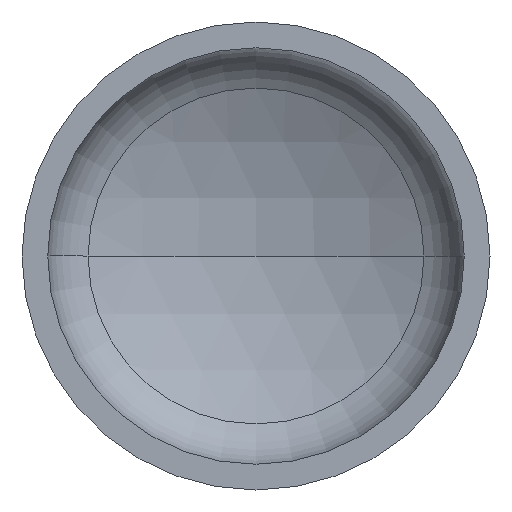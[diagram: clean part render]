
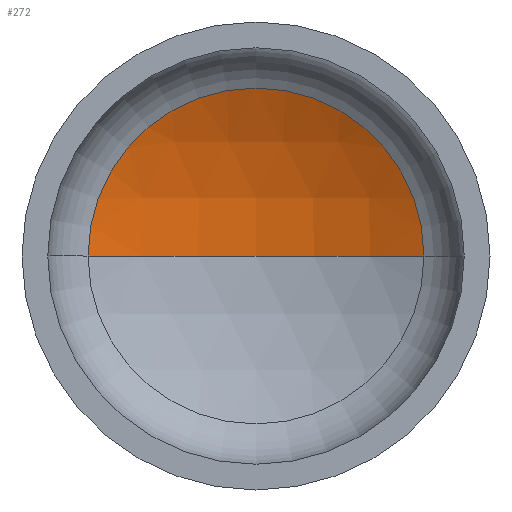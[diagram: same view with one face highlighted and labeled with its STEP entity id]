
A CAD part, front view. The second image highlights one B-rep face of the part: STEP entity #272.
In plain terms, the highlighted spherical face has radius 640 mm.
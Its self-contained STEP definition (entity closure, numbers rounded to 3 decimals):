
#11 = VERTEX_POINT ( 'NONE', #290 ) ;
#17 = EDGE_LOOP ( 'NONE', ( #117, #108, #53 ) ) ;
#33 = AXIS2_PLACEMENT_3D ( 'NONE', #187, #39, #389 ) ;
#37 = DIRECTION ( 'NONE',  ( 1., 0., 0. ) ) ;
#39 = DIRECTION ( 'NONE',  ( 0., 0., -1. ) ) ;
#48 = VERTEX_POINT ( 'NONE', #361 ) ;
#49 = AXIS2_PLACEMENT_3D ( 'NONE', #193, #209, #213 ) ;
#52 = AXIS2_PLACEMENT_3D ( 'NONE', #407, #367, #319 ) ;
#53 = ORIENTED_EDGE ( 'NONE', *, *, #142, .T. ) ;
#56 = AXIS2_PLACEMENT_3D ( 'NONE', #150, #156, #37 ) ;
#59 = CIRCLE ( 'NONE', #49, 640. ) ;
#103 = CIRCLE ( 'NONE', #56, 287.068 ) ;
#106 = VERTEX_POINT ( 'NONE', #302 ) ;
#108 = ORIENTED_EDGE ( 'NONE', *, *, #153, .T. ) ;
#117 = ORIENTED_EDGE ( 'NONE', *, *, #158, .F. ) ;
#142 = EDGE_CURVE ( 'NONE', #11, #48, #103, .T. ) ;
#150 = CARTESIAN_POINT ( 'NONE',  ( 0., 251.72, 0. ) ) ;
#153 = EDGE_CURVE ( 'NONE', #106, #11, #182, .T. ) ;
#156 = DIRECTION ( 'NONE',  ( 0., -1., 0. ) ) ;
#158 = EDGE_CURVE ( 'NONE', #106, #48, #59, .T. ) ;
#166 = SPHERICAL_SURFACE ( 'NONE', #33, 640. ) ;
#182 = CIRCLE ( 'NONE', #52, 640. ) ;
#187 = CARTESIAN_POINT ( 'NONE',  ( 0., -320.287, 0. ) ) ;
#193 = CARTESIAN_POINT ( 'NONE',  ( 0., -320.287, 0. ) ) ;
#209 = DIRECTION ( 'NONE',  ( 0., 0., 1. ) ) ;
#213 = DIRECTION ( 'NONE',  ( 1., 0., 0. ) ) ;
#272 = ADVANCED_FACE ( 'NONE', ( #288 ), #166, .F. ) ;
#288 = FACE_OUTER_BOUND ( 'NONE', #17, .T. ) ;
#290 = CARTESIAN_POINT ( 'NONE',  ( 287.068, 251.72, 0. ) ) ;
#302 = CARTESIAN_POINT ( 'NONE',  ( 0., 319.713, 0. ) ) ;
#319 = DIRECTION ( 'NONE',  ( -1., 0., 0. ) ) ;
#361 = CARTESIAN_POINT ( 'NONE',  ( -287.068, 251.72, 0. ) ) ;
#367 = DIRECTION ( 'NONE',  ( 0., 0., -1. ) ) ;
#389 = DIRECTION ( 'NONE',  ( -1., 0., 0. ) ) ;
#407 = CARTESIAN_POINT ( 'NONE',  ( 0., -320.287, 0. ) ) ;
